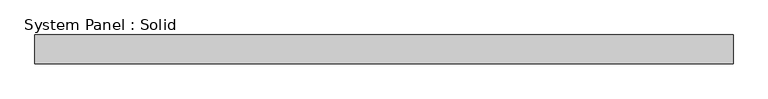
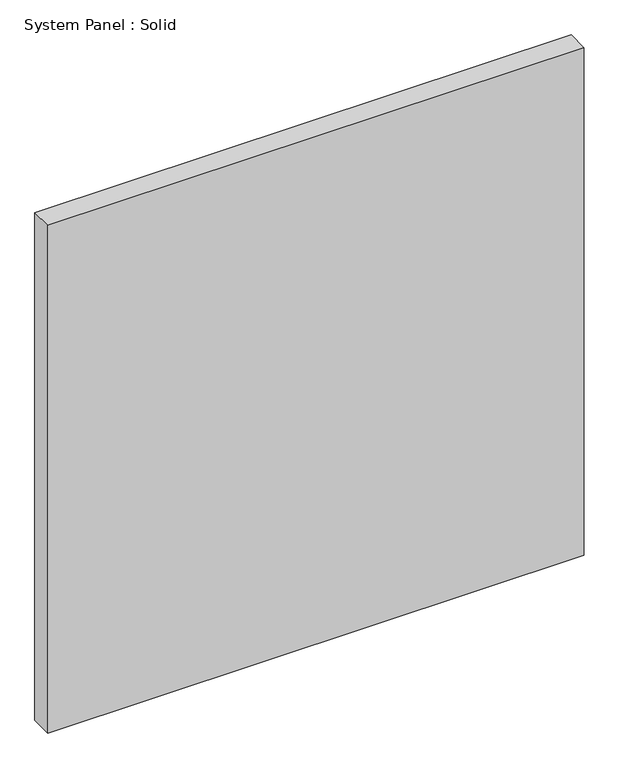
"""IFC4 building model written with IfcOpenShell, lengths in millimetres: plate geometry, System Panel : Solid."""

import ifcopenshell
import ifcopenshell.guid

model = None  # the IFC model being written
_history = None  # IfcOwnerHistory: only IFC2X3 demands one
_inside = {}  # id of a spatial element -> (the spatial element, [elements in it])
_under = {}  # id of a project, library or spatial element -> (it, [spatial elements below it])
_declared = {}  # id of a project -> (the project, [libraries it declares])
_typed = {}  # id of a type object -> (the type object, [elements of that type])
_made_of = {}  # id of a material, layer set ... -> (it, [elements and type objects made of it])


def new_model(schema):
    """Start an empty IFC model of exactly this schema.

    Asked for "IFC4X3", IfcOpenShell would pick the latest addendum, in which some entities
    have other attributes; the version numbers below select the first issue.
    IFC2X3 requires an IfcOwnerHistory on every rooted entity: one is made here for all.
    """
    global model, _history
    if schema == "IFC4X3":
        model = ifcopenshell.file(schema_version=(4, 3, 0, 0))
    else:
        model = ifcopenshell.file(schema=schema)
    _inside.clear()
    _under.clear()
    _declared.clear()
    _typed.clear()
    _made_of.clear()
    _history = None
    if model.schema == "IFC2X3":
        org = make("IfcOrganization", Name="unknown")
        user = make(
            "IfcPersonAndOrganization",
            ThePerson=make("IfcPerson", FamilyName="unknown"),
            TheOrganization=org,
        )
        app = make(
            "IfcApplication",
            ApplicationDeveloper=org,
            Version="unknown",
            ApplicationFullName="unknown",
            ApplicationIdentifier="unknown",
        )
        _history = make(
            "IfcOwnerHistory",
            OwningUser=user,
            OwningApplication=app,
            ChangeAction="ADDED",
            CreationDate=0,
        )
    return model


def make(cls, **values):
    """One entity of the class cls with the attributes given. An attribute that is None is left unset."""
    return model.create_entity(
        cls, **{name: value for name, value in values.items() if value is not None}
    )


def rooted(cls, **values):
    """An entity with a GlobalId (a new one), such as an element, a storey or a relation."""
    return make(cls, GlobalId=ifcopenshell.guid.new(), OwnerHistory=_history, **values)


def si_unit(unit_type, name, prefix=None):
    """IfcSIUnit, for example si_unit("LENGTHUNIT", "METRE", prefix="MILLI")."""
    return make("IfcSIUnit", UnitType=unit_type, Prefix=prefix, Name=name)


def assignment(units):
    """IfcUnitAssignment: the units of a project."""
    return None if units is None else make("IfcUnitAssignment", Units=units)


def point(xyz):
    """IfcCartesianPoint."""
    return None if xyz is None else make("IfcCartesianPoint", Coordinates=xyz)


def direction(xyz):
    """IfcDirection."""
    return None if xyz is None else make("IfcDirection", DirectionRatios=xyz)


def frame(location, z_axis=None, x_axis=None):
    """IfcAxis2Placement3D, a coordinate frame: its origin and axes. An axis left out is left unset."""
    return make(
        "IfcAxis2Placement3D",
        Location=point(location),
        Axis=direction(z_axis),
        RefDirection=direction(x_axis),
    )


def origin():
    """The frame at (0, 0, 0) with its axes left unset."""
    return frame((0.0, 0.0, 0.0))


def origin_with_axes():
    """The frame at (0, 0, 0) with the z axis (0, 0, 1) and the x axis (1, 0, 0) written out."""
    return frame((0.0, 0.0, 0.0), z_axis=(0.0, 0.0, 1.0), x_axis=(1.0, 0.0, 0.0))


def place(relative_to, where):
    """IfcLocalPlacement: puts the frame where relative to a parent placement (None: the world)."""
    return make(
        "IfcLocalPlacement", PlacementRelTo=relative_to, RelativePlacement=where
    )


def context(
    kind, dimensions, precision=None, world=None, true_north=None, identifier=None
):
    """IfcGeometricRepresentationContext, for example the 3D "Model" context."""
    return make(
        "IfcGeometricRepresentationContext",
        ContextIdentifier=identifier,
        ContextType=kind,
        CoordinateSpaceDimension=dimensions,
        Precision=precision,
        WorldCoordinateSystem=world,
        TrueNorth=true_north,
    )


def project(units=None, contexts=None):
    """IfcProject with its units and contexts."""
    return rooted(
        "IfcProject",
        Name="project",
        RepresentationContexts=contexts,
        UnitsInContext=assignment(units),
    )


def spatial(cls, under=None, at=None, **own):
    """A site, building, storey or space (cls), placed at a placement, below another one or the project."""
    s = rooted(cls, ObjectPlacement=at, **own)
    if under is not None:
        _under.setdefault(under.id(), (under, []))[1].append(s)
    return s


def polyline(points):
    """IfcPolyline through the points."""
    return make("IfcPolyline", Points=[point(p) for p in points])


def outline(outer, holes=None, kind="AREA"):
    """IfcArbitraryClosedProfileDef: a profile drawn as a closed curve; with holes, ...WithVoids."""
    if holes is None:
        return make("IfcArbitraryClosedProfileDef", ProfileType=kind, OuterCurve=outer)
    return make(
        "IfcArbitraryProfileDefWithVoids",
        ProfileType=kind,
        OuterCurve=outer,
        InnerCurves=holes,
    )


def extrude(swept, where, along, depth):
    """IfcExtrudedAreaSolid: the profile swept, set in the frame where, extruded along a direction by depth."""
    return make(
        "IfcExtrudedAreaSolid",
        SweptArea=swept,
        Position=where,
        ExtrudedDirection=direction(along),
        Depth=depth,
    )


def shape(context_of_items, identifier, shape_type, items):
    """IfcShapeRepresentation: the items that make up one representation, for example the "Body"."""
    return make(
        "IfcShapeRepresentation",
        ContextOfItems=context_of_items,
        RepresentationIdentifier=identifier,
        RepresentationType=shape_type,
        Items=items,
    )


def source(mapping_origin, context_of_items, identifier, shape_type, items):
    """IfcRepresentationMap: a shape defined once, which mapped items show again and again."""
    return make(
        "IfcRepresentationMap",
        MappingOrigin=mapping_origin,
        MappedRepresentation=shape(context_of_items, identifier, shape_type, items),
    )


def transform(
    local_origin,
    x_axis=None,
    y_axis=None,
    z_axis=None,
    scale=None,
    scale2=None,
    scale3=None,
    uniform=True,
):
    """IfcCartesianTransformationOperator3D, or its non-uniform kind. x_axis, y_axis, z_axis: its Axis1, 2, 3."""
    if uniform:
        return make(
            "IfcCartesianTransformationOperator3D",
            Axis1=direction(x_axis),
            Axis2=direction(y_axis),
            LocalOrigin=point(local_origin),
            Scale=scale,
            Axis3=direction(z_axis),
        )
    return make(
        "IfcCartesianTransformationOperator3DnonUniform",
        Axis1=direction(x_axis),
        Axis2=direction(y_axis),
        LocalOrigin=point(local_origin),
        Scale=scale,
        Axis3=direction(z_axis),
        Scale2=scale2,
        Scale3=scale3,
    )


def mapped(mapping_source, mapping_target):
    """IfcMappedItem: shows the shape of a source again, moved by a transform."""
    return make(
        "IfcMappedItem", MappingSource=mapping_source, MappingTarget=mapping_target
    )


def made_of(thing, what):
    """Note that an element or type object is made of a material, layer set ...; save() writes the relation."""
    if what is not None:
        _made_of.setdefault(what.id(), (what, []))[1].append(thing)
    return thing


def element(
    cls,
    number,
    at=None,
    inside=None,
    cuts=None,
    type_object=None,
    material=None,
    context=None,
    identifier="Body",
    shape_type=None,
    held_by="IfcProductDefinitionShape",
    body=None,
    shapes=None,
    **own,
):
    """One element of the class cls, such as IfcWall. Its Tag is "e" and its number.

    at: its placement. inside: the storey or other place that contains it. cuts: it is an
    opening in that element (IfcRelVoidsElement). A single representation is given by context,
    identifier, shape_type and body (its items); several are given by shapes. held_by: the class
    of the entity that holds the representations. save() writes the other relations.
    """
    e = rooted(cls, Tag="e%d" % number, ObjectPlacement=at, **own)
    if body is not None:
        shapes = [shape(context, identifier, shape_type, body)]
    if shapes is not None:
        e.Representation = make(held_by, Representations=shapes)
    if inside is not None:
        _inside.setdefault(inside.id(), (inside, []))[1].append(e)
    if cuts is not None:
        rooted(
            "IfcRelVoidsElement", RelatingBuildingElement=cuts, RelatedOpeningElement=e
        )
    if type_object is not None:
        _typed.setdefault(type_object.id(), (type_object, []))[1].append(e)
    return made_of(e, material)


def aggregate(whole, parts):
    """IfcRelAggregates: a whole, such as a stair, and the parts it consists of."""
    return rooted("IfcRelAggregates", RelatingObject=whole, RelatedObjects=parts)


def save(model, path):
    """Write the relations noted so far, then the file.

    IfcRelAggregates (storeys below a building ...), IfcRelContainedInSpatialStructure (elements
    in a storey), IfcRelDefinesByType, IfcRelAssociatesMaterial and IfcRelDeclares: one each for
    every whole, place, type object, material and project.
    """
    for whole, parts in _under.values():
        aggregate(whole, parts)
    for where, things in _inside.values():
        rooted(
            "IfcRelContainedInSpatialStructure",
            RelatedElements=things,
            RelatingStructure=where,
        )
    for kind, things in _typed.values():
        rooted("IfcRelDefinesByType", RelatedObjects=things, RelatingType=kind)
    for what, things in _made_of.values():
        rooted("IfcRelAssociatesMaterial", RelatedObjects=things, RelatingMaterial=what)
    for by, libraries in _declared.values():
        rooted("IfcRelDeclares", RelatingContext=by, RelatedDefinitions=libraries)
    model.write(path)


def system_panel_solid_b6abb4cb(model_context):
    return source(origin(), model_context, "Body", "SweptSolid", [
        extrude(outline(polyline([(724.5, -10.5), (-724.5, -10.5), (-724.5, 49.5), (724.5, 49.5), (724.5, -10.5)])), origin_with_axes(), (0.0, 0.0, 1.0), 1449.0),
    ])


if __name__ == "__main__":
    model = new_model("IFC4")
    model_context = context("Model", 3, world=origin())
    ifc_project = project(units=[si_unit("LENGTHUNIT", "METRE", prefix="MILLI")], contexts=[model_context])
    site = spatial("IfcSite", under=ifc_project)
    building = spatial("IfcBuilding", under=site)
    placement = place(None, origin())
    system_panel_solid_shape = system_panel_solid_b6abb4cb(model_context)
    element("IfcPlate", 1, ObjectType="System Panel : Solid", at=placement, inside=building, context=model_context, shape_type="MappedRepresentation", body=[
        mapped(system_panel_solid_shape, transform((0.0, 0.0, 0.0), x_axis=(1.0, 0.0, 0.0), y_axis=(0.0, 1.0, 0.0), z_axis=(0.0, 0.0, 1.0))),
    ])
    save(model, "model.ifc")
